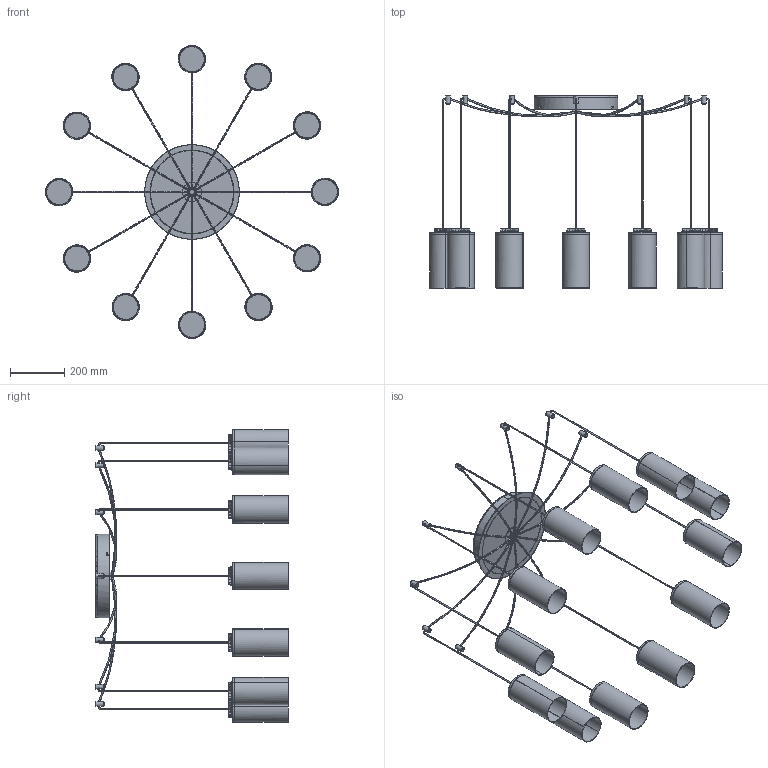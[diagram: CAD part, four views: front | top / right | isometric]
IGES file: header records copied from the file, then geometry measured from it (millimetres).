
Start section: SolidWorks IGES file using NURBS representation for surfaces
Global section: file name: C:\Users\aitor.torredeflot\Desktop\3D WEB (miscel·laniuos)\Cirio Multiple.IGS; native system: SolidWorks 2016; preprocessor: SolidWorks 2016; author: aitor.torredeflot; date: 170713.160105; units: millimetre
Bounding box: 1083.27 x 711.35 x 1083.27 mm (x, y, z)
Surface area: 2636000.7 mm2 (no closed solid volume)
Topology: 0 solids, 0 shells, 3749 faces, 31112 edges, 31112 vertices
Faces by surface type: bspline 3749
